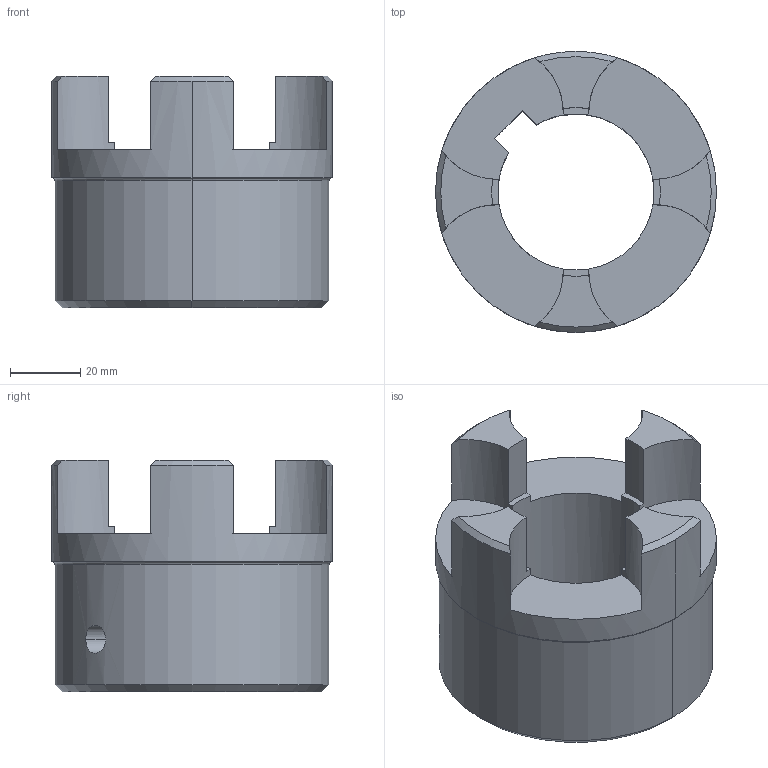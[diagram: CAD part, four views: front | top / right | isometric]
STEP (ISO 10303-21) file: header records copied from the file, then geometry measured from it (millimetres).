
FILE_DESCRIPTION((''),'2;1');
FILE_NAME('020383124430_INT','2021-09-14T14:02:15',('W.Rathmann'),(''),'CREO PARAMETRIC BY PTC INC, 2020044','CREO PARAMETRIC BY PTC INC, 2020044','');
FILE_SCHEMA(('CONFIG_CONTROL_DESIGN'));
Length unit declared in the file: millimetre
Products named in the file (1): 020383124430_INT
Bounding box: 80 x 80 x 66 mm (x, y, z)
Volume: 161001.1 mm3; surface area: 29964.4 mm2
Topology: 1 solids, 1 shells, 44 faces, 130 edges, 96 vertices
Faces by surface type: cylinder 19, plane 17, cone 6, torus 2
Entity records: 1587 total; most frequent: CARTESIAN_POINT 323, DIRECTION 280, ORIENTED_EDGE 244, EDGE_CURVE 122, AXIS2_PLACEMENT_3D 115, VERTEX_POINT 80, CIRCLE 70, VECTOR 50
